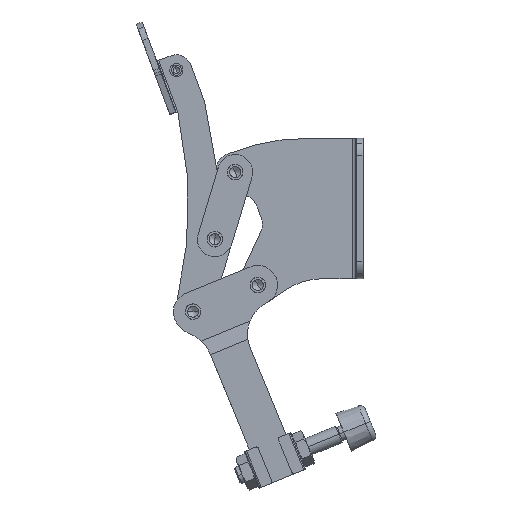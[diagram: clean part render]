
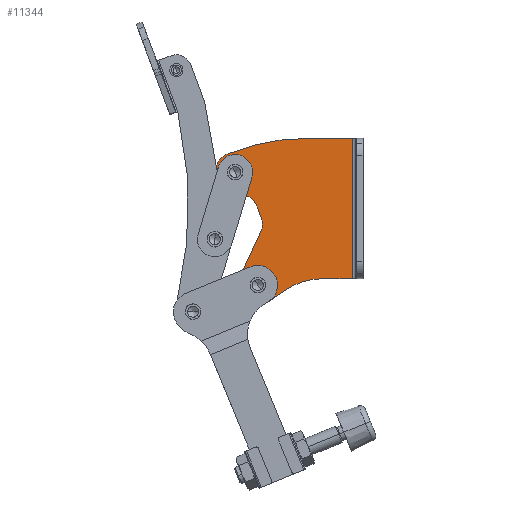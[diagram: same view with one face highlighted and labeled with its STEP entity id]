
A CAD part, left-side view. The second image highlights one B-rep face of the part: STEP entity #11344.
In plain terms, the highlighted planar face has unit normal (-1, 0, 0).
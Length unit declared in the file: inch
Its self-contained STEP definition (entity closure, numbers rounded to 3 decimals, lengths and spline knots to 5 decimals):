
#10461=CARTESIAN_POINT('',(0.97187,1.82339,-0.496));
#10462=VERTEX_POINT('',#10461);
#10478=CARTESIAN_POINT('',(0.97187,1.82339,-0.718));
#10479=VERTEX_POINT('',#10478);
#10486=CARTESIAN_POINT('',(0.97187,1.82339,-0.607));
#10487=DIRECTION('',(1.0,0.0,0.0));
#10488=DIRECTION('',(0.0,0.0,1.0));
#10489=AXIS2_PLACEMENT_3D('',#10486,#10487,#10488);
#10490=CIRCLE('',#10489,0.111);
#10491=EDGE_CURVE('',#10462,#10479,#10490,.T.);
#10524=CARTESIAN_POINT('',(0.97187,1.5,-2.108));
#10525=VERTEX_POINT('',#10524);
#10541=CARTESIAN_POINT('',(0.97187,1.5,-2.33));
#10542=VERTEX_POINT('',#10541);
#10549=CARTESIAN_POINT('',(0.97187,1.5,-2.219));
#10550=DIRECTION('',(1.0,0.0,0.0));
#10551=DIRECTION('',(0.0,0.0,1.0));
#10552=AXIS2_PLACEMENT_3D('',#10549,#10550,#10551);
#10553=CIRCLE('',#10552,0.111);
#10554=EDGE_CURVE('',#10525,#10542,#10553,.T.);
#10784=CARTESIAN_POINT('',(0.97187,0.1527,-0.12648));
#10785=VERTEX_POINT('',#10784);
#10793=CARTESIAN_POINT('',(0.97187,0.1527,-2.12602));
#10794=VERTEX_POINT('',#10793);
#10795=CARTESIAN_POINT('',(0.97187,0.1527,-0.12648));
#10796=DIRECTION('',(0.0,0.0,-1.0));
#10797=VECTOR('',#10796,1.99954);
#10798=LINE('',#10795,#10797);
#10799=EDGE_CURVE('',#10785,#10794,#10798,.T.);
#10858=CARTESIAN_POINT('',(0.97187,2.04204,-0.7835));
#10859=VERTEX_POINT('',#10858);
#10868=CARTESIAN_POINT('',(0.97187,2.08789,-0.51213));
#10869=VERTEX_POINT('',#10868);
#10870=CARTESIAN_POINT('',(0.97187,2.08789,-0.51213));
#10871=DIRECTION('',(0.0,-0.167,-0.986));
#10872=VECTOR('',#10871,0.27522);
#10873=LINE('',#10870,#10872);
#10874=EDGE_CURVE('',#10869,#10859,#10873,.T.);
#11045=CARTESIAN_POINT('',(0.97187,1.89389,-0.33499));
#11046=VERTEX_POINT('',#11045);
#11047=CARTESIAN_POINT('',(0.97187,1.82339,-0.607));
#11048=DIRECTION('',(-1.,0.,0.));
#11049=DIRECTION('',(0.,0.251,0.968));
#11050=AXIS2_PLACEMENT_3D('',#11047,#11048,#11049);
#11051=CIRCLE('',#11050,0.281);
#11052=EDGE_CURVE('',#11046,#10869,#11051,.T.);
#11162=CARTESIAN_POINT('',(0.97187,0.795,-0.12648));
#11163=VERTEX_POINT('',#11162);
#11170=CARTESIAN_POINT('',(0.97187,0.1527,-0.12648));
#11171=DIRECTION('',(0.0,1.0,0.0));
#11172=VECTOR('',#11171,0.6423);
#11173=LINE('',#11170,#11172);
#11174=EDGE_CURVE('',#10785,#11163,#11173,.T.);
#11223=CARTESIAN_POINT('',(0.97187,2.5,0.0));
#11224=DIRECTION('',(-1.0,0.0,0.0));
#11225=DIRECTION('',(0.0,0.0,1.0));
#11226=AXIS2_PLACEMENT_3D('',#11223,#11224,#11225);
#11227=PLANE('',#11226);
#11228=ORIENTED_EDGE('',*,*,#10874,.T.);
#11229=CARTESIAN_POINT('',(0.97187,1.89569,-0.87854));
#11230=VERTEX_POINT('',#11229);
#11231=CARTESIAN_POINT('',(0.97187,1.82339,-0.607));
#11232=DIRECTION('',(-1.,0.,0.));
#11233=DIRECTION('',(0.,0.251,0.968));
#11234=AXIS2_PLACEMENT_3D('',#11231,#11232,#11233);
#11235=CIRCLE('',#11234,0.281);
#11236=EDGE_CURVE('',#10859,#11230,#11235,.T.);
#11237=ORIENTED_EDGE('',*,*,#11236,.T.);
#11238=CARTESIAN_POINT('',(0.97187,1.68386,-0.93494));
#11239=VERTEX_POINT('',#11238);
#11240=CARTESIAN_POINT('',(0.97187,1.89569,-0.87854));
#11241=DIRECTION('',(0.0,-0.966,-0.257));
#11242=VECTOR('',#11241,0.21921);
#11243=LINE('',#11240,#11242);
#11244=EDGE_CURVE('',#11230,#11239,#11243,.T.);
#11245=ORIENTED_EDGE('',*,*,#11244,.T.);
#11246=CARTESIAN_POINT('',(0.97187,1.5134,-1.09065));
#11247=VERTEX_POINT('',#11246);
#11248=CARTESIAN_POINT('',(0.97187,1.74818,-1.17653));
#11249=DIRECTION('',(1.0,0.,0.));
#11250=DIRECTION('',(0.,0.939,-0.343));
#11251=AXIS2_PLACEMENT_3D('',#11248,#11249,#11250);
#11252=CIRCLE('',#11251,0.25);
#11253=EDGE_CURVE('',#11239,#11247,#11252,.T.);
#11254=ORIENTED_EDGE('',*,*,#11253,.T.);
#11255=CARTESIAN_POINT('',(0.97187,1.4487,-1.26754));
#11256=VERTEX_POINT('',#11255);
#11257=CARTESIAN_POINT('',(0.97187,1.5134,-1.09065));
#11258=DIRECTION('',(0.0,-0.343,-0.939));
#11259=VECTOR('',#11258,0.18835);
#11260=LINE('',#11257,#11259);
#11261=EDGE_CURVE('',#11247,#11256,#11260,.T.);
#11262=ORIENTED_EDGE('',*,*,#11261,.T.);
#11263=CARTESIAN_POINT('',(0.97187,1.45675,-1.45871));
#11264=VERTEX_POINT('',#11263);
#11265=CARTESIAN_POINT('',(0.97187,1.68349,-1.35341));
#11266=DIRECTION('',(1.0,0.,0.));
#11267=DIRECTION('',(0.,0.907,0.421));
#11268=AXIS2_PLACEMENT_3D('',#11265,#11266,#11267);
#11269=CIRCLE('',#11268,0.25);
#11270=EDGE_CURVE('',#11256,#11264,#11269,.T.);
#11271=ORIENTED_EDGE('',*,*,#11270,.T.);
#11272=CARTESIAN_POINT('',(0.97187,1.75486,-2.10064));
#11273=VERTEX_POINT('',#11272);
#11274=CARTESIAN_POINT('',(0.97187,1.45675,-1.45871));
#11275=DIRECTION('',(0.,0.421,-0.907));
#11276=VECTOR('',#11275,0.70778);
#11277=LINE('',#11274,#11276);
#11278=EDGE_CURVE('',#11264,#11273,#11277,.T.);
#11279=ORIENTED_EDGE('',*,*,#11278,.T.);
#11280=CARTESIAN_POINT('',(0.97187,1.33883,-2.44918));
#11281=VERTEX_POINT('',#11280);
#11282=CARTESIAN_POINT('',(0.97187,1.5,-2.219));
#11283=DIRECTION('',(-1.0,0.,0.));
#11284=DIRECTION('',(0.,0.907,0.421));
#11285=AXIS2_PLACEMENT_3D('',#11282,#11283,#11284);
#11286=CIRCLE('',#11285,0.281);
#11287=EDGE_CURVE('',#11273,#11281,#11286,.T.);
#11288=ORIENTED_EDGE('',*,*,#11287,.T.);
#11289=CARTESIAN_POINT('',(0.97187,1.13558,-2.30687));
#11290=VERTEX_POINT('',#11289);
#11291=CARTESIAN_POINT('',(0.97187,1.33883,-2.44918));
#11292=DIRECTION('',(0.0,-0.819,0.574));
#11293=VECTOR('',#11292,0.24812);
#11294=LINE('',#11291,#11293);
#11295=EDGE_CURVE('',#11281,#11290,#11294,.T.);
#11296=ORIENTED_EDGE('',*,*,#11295,.T.);
#11297=CARTESIAN_POINT('',(0.97187,0.562,-2.12602));
#11298=VERTEX_POINT('',#11297);
#11299=CARTESIAN_POINT('',(0.97187,0.562,-3.12602));
#11300=DIRECTION('',(1.0,0.0,0.0));
#11301=DIRECTION('',(0.0,0.0,-1.0));
#11302=AXIS2_PLACEMENT_3D('',#11299,#11300,#11301);
#11303=CIRCLE('',#11302,1.);
#11304=EDGE_CURVE('',#11290,#11298,#11303,.T.);
#11305=ORIENTED_EDGE('',*,*,#11304,.T.);
#11306=CARTESIAN_POINT('',(0.97187,0.562,-2.12602));
#11307=DIRECTION('',(0.0,-1.0,0.0));
#11308=VECTOR('',#11307,0.4093);
#11309=LINE('',#11306,#11308);
#11310=EDGE_CURVE('',#11298,#10794,#11309,.T.);
#11311=ORIENTED_EDGE('',*,*,#11310,.T.);
#11312=ORIENTED_EDGE('',*,*,#10799,.F.);
#11313=ORIENTED_EDGE('',*,*,#11174,.T.);
#11314=CARTESIAN_POINT('',(0.97187,0.795,-3.12648));
#11315=DIRECTION('',(-1.0,0.0,0.0));
#11316=DIRECTION('',(0.0,0.0,1.0));
#11317=AXIS2_PLACEMENT_3D('',#11314,#11315,#11316);
#11318=CIRCLE('',#11317,3.0);
#11319=EDGE_CURVE('',#11163,#11046,#11318,.T.);
#11320=ORIENTED_EDGE('',*,*,#11319,.T.);
#11321=ORIENTED_EDGE('',*,*,#11052,.T.);
#11322=EDGE_LOOP('',(#11228,#11237,#11245,#11254,#11262,#11271,#11279,#11288,#11296,#11305,#11311,#11312,#11313,#11320,#11321));
#11323=FACE_OUTER_BOUND('',#11322,.T.);
#11324=ORIENTED_EDGE('',*,*,#10491,.T.);
#11325=CARTESIAN_POINT('',(0.97187,1.82339,-0.607));
#11326=DIRECTION('',(1.0,0.0,0.0));
#11327=DIRECTION('',(0.0,0.0,1.0));
#11328=AXIS2_PLACEMENT_3D('',#11325,#11326,#11327);
#11329=CIRCLE('',#11328,0.111);
#11330=EDGE_CURVE('',#10479,#10462,#11329,.T.);
#11331=ORIENTED_EDGE('',*,*,#11330,.T.);
#11332=EDGE_LOOP('',(#11324,#11331));
#11333=FACE_BOUND('',#11332,.T.);
#11334=ORIENTED_EDGE('',*,*,#10554,.T.);
#11335=CARTESIAN_POINT('',(0.97187,1.5,-2.219));
#11336=DIRECTION('',(1.0,0.0,0.0));
#11337=DIRECTION('',(0.0,0.0,1.0));
#11338=AXIS2_PLACEMENT_3D('',#11335,#11336,#11337);
#11339=CIRCLE('',#11338,0.111);
#11340=EDGE_CURVE('',#10542,#10525,#11339,.T.);
#11341=ORIENTED_EDGE('',*,*,#11340,.T.);
#11342=EDGE_LOOP('',(#11334,#11341));
#11343=FACE_BOUND('',#11342,.T.);
#11344=ADVANCED_FACE('',(#11323,#11333,#11343),#11227,.T.);
